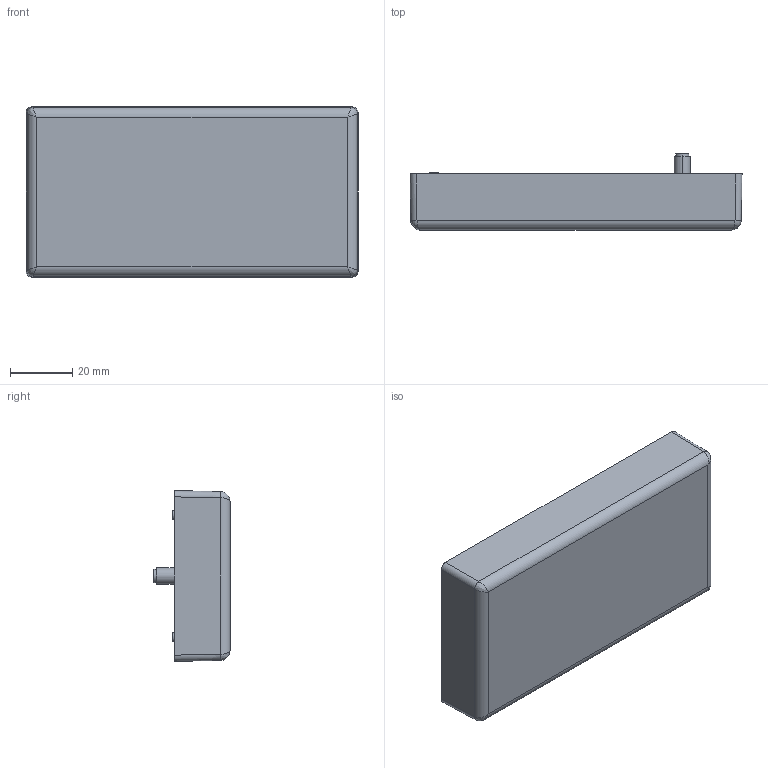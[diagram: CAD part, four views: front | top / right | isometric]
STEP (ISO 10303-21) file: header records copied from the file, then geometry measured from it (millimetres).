
FILE_DESCRIPTION (( 'STEP AP214' ), '1' );
FILE_NAME ('Cuerpo PP21.STEP', '2018-06-09T08:41:24', ( 'aaa' ), ( '' ), 'SwSTEP 2.0', 'SolidWorks 2013', '' );
FILE_SCHEMA (( 'AUTOMOTIVE_DESIGN' ));
Length unit declared in the file: millimetre
Products named in the file (1): Cuerpo PP21
Bounding box: 107 x 24.5 x 55 mm (x, y, z)
Volume: 22834 mm3; surface area: 22524.5 mm2
Topology: 1 solids, 1 shells, 64 faces, 140 edges, 84 vertices
Faces by surface type: cylinder 26, plane 24, torus 8, bspline 4, cone 2
Entity records: 1902 total; most frequent: CARTESIAN_POINT 485, DIRECTION 306, ORIENTED_EDGE 272, EDGE_CURVE 136, AXIS2_PLACEMENT_3D 121, VERTEX_POINT 84, EDGE_LOOP 74, VECTOR 64
